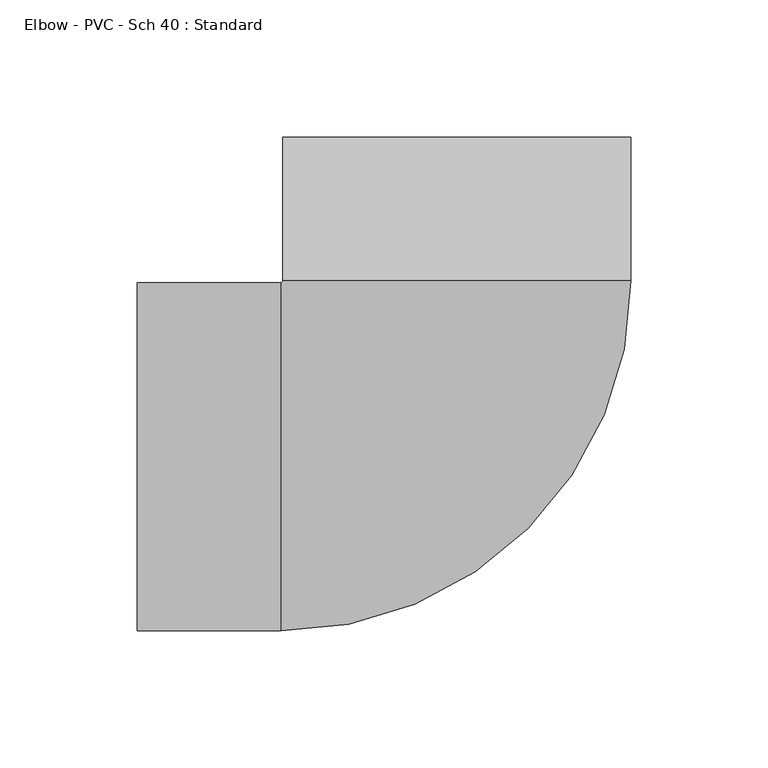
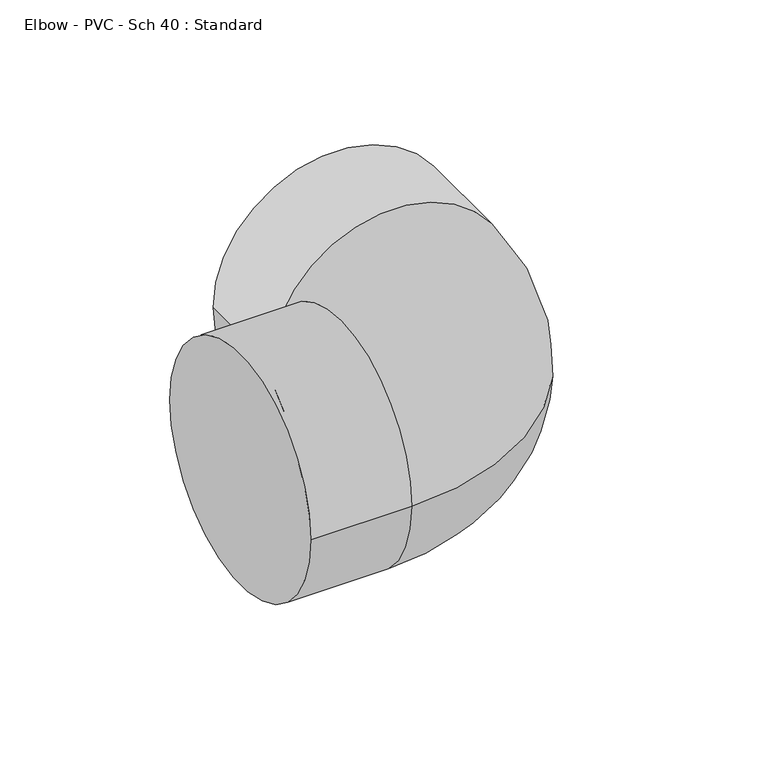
"""IFC4 building model written with IfcOpenShell, lengths in millimetres: pipe fitting geometry, Elbow - PVC - Sch 40 : Standard."""

from ifc_helpers import new_model, si_unit, point, frame, origin, place, context, project, spatial, circle_curve, ellipse_curve, trimmed, source, transform, mapped, element, save
from ifc_brep_helpers import plane_surface, cylinder_surface, revolved_surface, advanced_brep


def elbow_pvc_sch_40_standard_d32303a6(model_context):
    return source(origin(), model_context, "Body", "AdvancedBrep", [
        advanced_brep(
        [(-116.69395, -63.5, 0.0), (-116.69395, 63.5, 0.0), (-64.29375, -63.5, 0.0), (-64.29375, 63.5, 0.0), (-63.5, 64.29375, 0.0), (63.5, 64.29375, 0.0), (63.5, 116.69395, 0.0), (-63.5, 116.69395, 0.0)],
        [
            (0, 1, circle_curve(frame((-116.69395, 0.0, 0.0), z_axis=(-1.0, 0.0, 0.0), x_axis=(0.0, 1.0, 0.0)), 63.5)),
            (1, 0, circle_curve(frame((-116.69395, 0.0, 0.0), z_axis=(-1.0, 0.0, 0.0), x_axis=(0.0, 1.0, 0.0)), 63.5)),
            (0, 2),
            (2, 3, circle_curve(frame((-64.29375, 0.0, 0.0), z_axis=(-1.0, 0.0, 0.0), x_axis=(0.0, 1.0, 0.0)), 63.5)),
            (3, 1),
            (3, 2, circle_curve(frame((-64.29375, 0.0, 0.0), z_axis=(-1.0, 0.0, 0.0), x_axis=(0.0, 1.0, 0.0)), 63.5)),
            (4, 3, circle_curve(frame((-64.29375, 64.29375, 0.0), z_axis=(0.0, 0.0, -1.0), x_axis=(0.0, -1.0, 0.0)), 0.79375)),
            (2, 5, circle_curve(frame((-64.29375, 64.29375, 0.0), z_axis=(0.0, 0.0, 1.0), x_axis=(0.0, -1.0, 0.0)), 127.79375)),
            (5, 4, circle_curve(frame((0.0, 64.29375, 0.0), z_axis=(0.0, -1.0, 0.0), x_axis=(-1.0, 0.0, 0.0)), 63.5)),
            (4, 5, circle_curve(frame((0.0, 64.29375, 0.0), z_axis=(0.0, -1.0, 0.0), x_axis=(-1.0, 0.0, 0.0)), 63.5)),
            (6, 7, circle_curve(frame((0.0, 116.69395, 0.0), z_axis=(0.0, 1.0, 0.0), x_axis=(-1.0, 0.0, 0.0)), 63.5)),
            (7, 6, circle_curve(frame((0.0, 116.69395, 0.0), z_axis=(0.0, 1.0, 0.0), x_axis=(-1.0, 0.0, 0.0)), 63.5)),
            (5, 6),
            (7, 4),
        ],
        [
            plane_surface(frame((-116.69395, 0.0, 0.0), z_axis=(-1.0, 0.0, 0.0), x_axis=(0.0, 0.0, 1.0))),
            cylinder_surface(frame((-116.69395, 0.0, 0.0), z_axis=(-1.0, 0.0, 0.0), x_axis=(0.0, 1.0, 0.0)), 63.5),
            revolved_surface(trimmed(ellipse_curve(frame((-64.29375, 0.0, 0.0), z_axis=(-1.0, 0.0, 0.0), x_axis=(0.0, 1.0, 0.0)), 63.5, 63.5), [point((-64.29375, -63.5, 0.0))], [point((-64.29375, 63.5, 0.0))], True, "CARTESIAN"), (-64.29375, 64.29375, 0.0), (0.0, 0.0, 1.0)),
            revolved_surface(trimmed(ellipse_curve(frame((-64.29375, 0.0, 0.0), z_axis=(-1.0, 0.0, 0.0), x_axis=(0.0, 1.0, 0.0)), 63.5, 63.5), [point((-64.29375, 63.5, 0.0))], [point((-64.29375, -63.5, 0.0))], True, "CARTESIAN"), (-64.29375, 64.29375, 0.0), (0.0, 0.0, 1.0)),
            plane_surface(frame((0.0, 116.69395, 0.0), z_axis=(0.0, 1.0, 0.0), x_axis=(0.0, 0.0, 1.0))),
            cylinder_surface(frame((0.0, 64.29375, 0.0), z_axis=(0.0, -1.0, 0.0), x_axis=(-1.0, 0.0, 0.0)), 63.5),
        ],
        [
            (0, [[1, 2]]),
            (1, [[-1, 3, 4, 5]]),
            (1, [[-2, -5, 6, -3]]),
            (2, [[7, -4, 8, 9]]),
            (3, [[-8, -6, -7, 10]]),
            (4, [[11, 12]]),
            (5, [[-9, 13, -12, 14]]),
            (5, [[-10, -14, -11, -13]]),
        ],
    ),
    ])


if __name__ == "__main__":
    model = new_model("IFC4")
    model_context = context("Model", 3, world=origin())
    ifc_project = project(units=[si_unit("LENGTHUNIT", "METRE", prefix="MILLI")], contexts=[model_context])
    site = spatial("IfcSite", under=ifc_project)
    building = spatial("IfcBuilding", under=site)
    placement = place(None, origin())
    elbow_pvc_sch_40_standard_shape = elbow_pvc_sch_40_standard_d32303a6(model_context)
    element("IfcPipeFitting", 1, ObjectType="Elbow - PVC - Sch 40 : Standard", at=placement, inside=building, context=model_context, shape_type="MappedRepresentation", body=[
        mapped(elbow_pvc_sch_40_standard_shape, transform((0.0, 0.0, 0.0), x_axis=(1.0, 0.0, 0.0), y_axis=(0.0, 1.0, 0.0), z_axis=(0.0, 0.0, 1.0))),
    ])
    save(model, "model.ifc")
